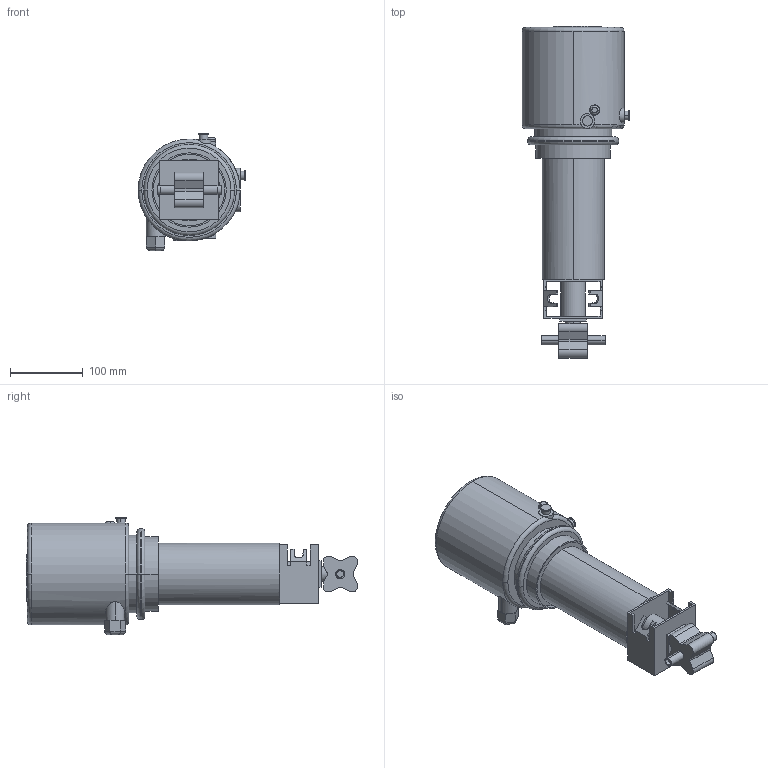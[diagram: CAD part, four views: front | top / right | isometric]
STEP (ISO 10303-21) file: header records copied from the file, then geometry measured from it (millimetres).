
FILE_DESCRIPTION(('Creo Elements/Direct Modeling STEP Export'),'2;1');
FILE_NAME('BLV1-0.5T-NC-12S-CU4.stp','2019-05-10T 7:43:17',(''),(''),'Creo Elements/Direct Modeling STEP processor for AP214 (Solid Model)','Creo Elements/Direct Modeling 19.0F 14-Feb-2017 (C) Parametric Technology GmbH','');
FILE_SCHEMA(('AUTOMOTIVE_DESIGN { 1 0 10303 214 1 1 1 1 }'));
Length unit declared in the file: millimetre
Products named in the file (2): BLV1-0.5T-NC-12S-CU4
Assembly tree (1 placements, depth 2):
  BLV1-0.5T-NC-12S-CU4
    BLV1-0.5T-NC-12S-CU4
Bounding box: 148 x 455.96 x 161.4 mm (x, y, z)
Volume: 3642547.8 mm3; surface area: 218451.3 mm2
Topology: 1 solids, 1 shells, 232 faces, 594 edges, 387 vertices
Faces by surface type: cylinder 114, plane 108, torus 10
Entity records: 10032 total; most frequent: CARTESIAN_POINT 4495, ORIENTED_EDGE 1190, DIRECTION 1066, EDGE_CURVE 595, AXIS2_PLACEMENT_3D 388, VERTEX_POINT 387, VECTOR 290, LINE 290
